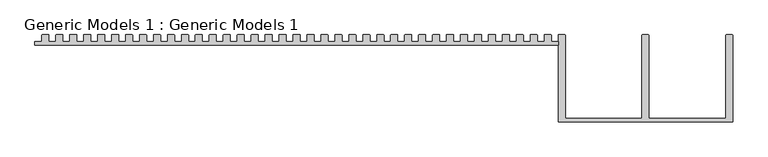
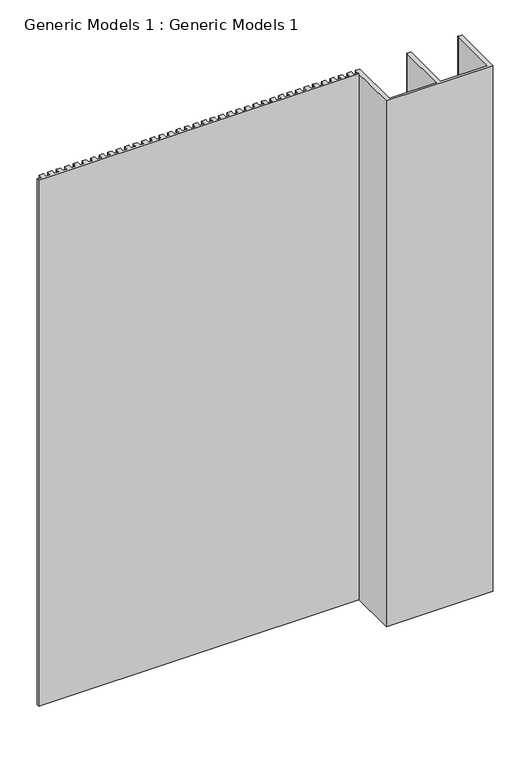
"""IFC4 building model written with IfcOpenShell, lengths in millimetres: proxy geometry, Generic Models 1 : Generic Models 1."""

import ifcopenshell
import ifcopenshell.guid

model = None  # the IFC model being written
_history = None  # IfcOwnerHistory: only IFC2X3 demands one
_inside = {}  # id of a spatial element -> (the spatial element, [elements in it])
_under = {}  # id of a project, library or spatial element -> (it, [spatial elements below it])
_declared = {}  # id of a project -> (the project, [libraries it declares])
_typed = {}  # id of a type object -> (the type object, [elements of that type])
_made_of = {}  # id of a material, layer set ... -> (it, [elements and type objects made of it])


def new_model(schema):
    """Start an empty IFC model of exactly this schema.

    Asked for "IFC4X3", IfcOpenShell would pick the latest addendum, in which some entities
    have other attributes; the version numbers below select the first issue.
    IFC2X3 requires an IfcOwnerHistory on every rooted entity: one is made here for all.
    """
    global model, _history
    if schema == "IFC4X3":
        model = ifcopenshell.file(schema_version=(4, 3, 0, 0))
    else:
        model = ifcopenshell.file(schema=schema)
    _inside.clear()
    _under.clear()
    _declared.clear()
    _typed.clear()
    _made_of.clear()
    _history = None
    if model.schema == "IFC2X3":
        org = make("IfcOrganization", Name="unknown")
        user = make(
            "IfcPersonAndOrganization",
            ThePerson=make("IfcPerson", FamilyName="unknown"),
            TheOrganization=org,
        )
        app = make(
            "IfcApplication",
            ApplicationDeveloper=org,
            Version="unknown",
            ApplicationFullName="unknown",
            ApplicationIdentifier="unknown",
        )
        _history = make(
            "IfcOwnerHistory",
            OwningUser=user,
            OwningApplication=app,
            ChangeAction="ADDED",
            CreationDate=0,
        )
    return model


def make(cls, **values):
    """One entity of the class cls with the attributes given. An attribute that is None is left unset."""
    return model.create_entity(
        cls, **{name: value for name, value in values.items() if value is not None}
    )


def rooted(cls, **values):
    """An entity with a GlobalId (a new one), such as an element, a storey or a relation."""
    return make(cls, GlobalId=ifcopenshell.guid.new(), OwnerHistory=_history, **values)


def si_unit(unit_type, name, prefix=None):
    """IfcSIUnit, for example si_unit("LENGTHUNIT", "METRE", prefix="MILLI")."""
    return make("IfcSIUnit", UnitType=unit_type, Prefix=prefix, Name=name)


def assignment(units):
    """IfcUnitAssignment: the units of a project."""
    return None if units is None else make("IfcUnitAssignment", Units=units)


def point(xyz):
    """IfcCartesianPoint."""
    return None if xyz is None else make("IfcCartesianPoint", Coordinates=xyz)


def direction(xyz):
    """IfcDirection."""
    return None if xyz is None else make("IfcDirection", DirectionRatios=xyz)


def frame(location, z_axis=None, x_axis=None):
    """IfcAxis2Placement3D, a coordinate frame: its origin and axes. An axis left out is left unset."""
    return make(
        "IfcAxis2Placement3D",
        Location=point(location),
        Axis=direction(z_axis),
        RefDirection=direction(x_axis),
    )


def frame_2d(location, x_axis=None):
    """IfcAxis2Placement2D, a coordinate frame in the plane: its origin and x axis."""
    return make(
        "IfcAxis2Placement2D", Location=point(location), RefDirection=direction(x_axis)
    )


def origin():
    """The frame at (0, 0, 0) with its axes left unset."""
    return frame((0.0, 0.0, 0.0))


def origin_with_axes():
    """The frame at (0, 0, 0) with the z axis (0, 0, 1) and the x axis (1, 0, 0) written out."""
    return frame((0.0, 0.0, 0.0), z_axis=(0.0, 0.0, 1.0), x_axis=(1.0, 0.0, 0.0))


def place(relative_to, where):
    """IfcLocalPlacement: puts the frame where relative to a parent placement (None: the world)."""
    return make(
        "IfcLocalPlacement", PlacementRelTo=relative_to, RelativePlacement=where
    )


def context(
    kind, dimensions, precision=None, world=None, true_north=None, identifier=None
):
    """IfcGeometricRepresentationContext, for example the 3D "Model" context."""
    return make(
        "IfcGeometricRepresentationContext",
        ContextIdentifier=identifier,
        ContextType=kind,
        CoordinateSpaceDimension=dimensions,
        Precision=precision,
        WorldCoordinateSystem=world,
        TrueNorth=true_north,
    )


def project(units=None, contexts=None):
    """IfcProject with its units and contexts."""
    return rooted(
        "IfcProject",
        Name="project",
        RepresentationContexts=contexts,
        UnitsInContext=assignment(units),
    )


def spatial(cls, under=None, at=None, **own):
    """A site, building, storey or space (cls), placed at a placement, below another one or the project."""
    s = rooted(cls, ObjectPlacement=at, **own)
    if under is not None:
        _under.setdefault(under.id(), (under, []))[1].append(s)
    return s


def polyline(points):
    """IfcPolyline through the points."""
    return make("IfcPolyline", Points=[point(p) for p in points])


def circle_curve(where, radius):
    """IfcCircle in the frame where."""
    return make("IfcCircle", Position=where, Radius=radius)


def trimmed(basis, trim1, trim2, sense, master):
    """IfcTrimmedCurve: the piece of a basis curve between two trims."""
    return make(
        "IfcTrimmedCurve",
        BasisCurve=basis,
        Trim1=trim1,
        Trim2=trim2,
        SenseAgreement=sense,
        MasterRepresentation=master,
    )


def segment(curve, same_sense, transition):
    """IfcCompositeCurveSegment."""
    return make(
        "IfcCompositeCurveSegment",
        Transition=transition,
        SameSense=same_sense,
        ParentCurve=curve,
    )


def composite_curve(segments, self_intersect=None):
    """IfcCompositeCurve: segments joined end to end."""
    return make("IfcCompositeCurve", Segments=segments, SelfIntersect=self_intersect)


def outline(outer, holes=None, kind="AREA"):
    """IfcArbitraryClosedProfileDef: a profile drawn as a closed curve; with holes, ...WithVoids."""
    if holes is None:
        return make("IfcArbitraryClosedProfileDef", ProfileType=kind, OuterCurve=outer)
    return make(
        "IfcArbitraryProfileDefWithVoids",
        ProfileType=kind,
        OuterCurve=outer,
        InnerCurves=holes,
    )


def extrude(swept, where, along, depth):
    """IfcExtrudedAreaSolid: the profile swept, set in the frame where, extruded along a direction by depth."""
    return make(
        "IfcExtrudedAreaSolid",
        SweptArea=swept,
        Position=where,
        ExtrudedDirection=direction(along),
        Depth=depth,
    )


def shape(context_of_items, identifier, shape_type, items):
    """IfcShapeRepresentation: the items that make up one representation, for example the "Body"."""
    return make(
        "IfcShapeRepresentation",
        ContextOfItems=context_of_items,
        RepresentationIdentifier=identifier,
        RepresentationType=shape_type,
        Items=items,
    )


def source(mapping_origin, context_of_items, identifier, shape_type, items):
    """IfcRepresentationMap: a shape defined once, which mapped items show again and again."""
    return make(
        "IfcRepresentationMap",
        MappingOrigin=mapping_origin,
        MappedRepresentation=shape(context_of_items, identifier, shape_type, items),
    )


def transform(
    local_origin,
    x_axis=None,
    y_axis=None,
    z_axis=None,
    scale=None,
    scale2=None,
    scale3=None,
    uniform=True,
):
    """IfcCartesianTransformationOperator3D, or its non-uniform kind. x_axis, y_axis, z_axis: its Axis1, 2, 3."""
    if uniform:
        return make(
            "IfcCartesianTransformationOperator3D",
            Axis1=direction(x_axis),
            Axis2=direction(y_axis),
            LocalOrigin=point(local_origin),
            Scale=scale,
            Axis3=direction(z_axis),
        )
    return make(
        "IfcCartesianTransformationOperator3DnonUniform",
        Axis1=direction(x_axis),
        Axis2=direction(y_axis),
        LocalOrigin=point(local_origin),
        Scale=scale,
        Axis3=direction(z_axis),
        Scale2=scale2,
        Scale3=scale3,
    )


def mapped(mapping_source, mapping_target):
    """IfcMappedItem: shows the shape of a source again, moved by a transform."""
    return make(
        "IfcMappedItem", MappingSource=mapping_source, MappingTarget=mapping_target
    )


def made_of(thing, what):
    """Note that an element or type object is made of a material, layer set ...; save() writes the relation."""
    if what is not None:
        _made_of.setdefault(what.id(), (what, []))[1].append(thing)
    return thing


def element(
    cls,
    number,
    at=None,
    inside=None,
    cuts=None,
    type_object=None,
    material=None,
    context=None,
    identifier="Body",
    shape_type=None,
    held_by="IfcProductDefinitionShape",
    body=None,
    shapes=None,
    **own,
):
    """One element of the class cls, such as IfcWall. Its Tag is "e" and its number.

    at: its placement. inside: the storey or other place that contains it. cuts: it is an
    opening in that element (IfcRelVoidsElement). A single representation is given by context,
    identifier, shape_type and body (its items); several are given by shapes. held_by: the class
    of the entity that holds the representations. save() writes the other relations.
    """
    e = rooted(cls, Tag="e%d" % number, ObjectPlacement=at, **own)
    if body is not None:
        shapes = [shape(context, identifier, shape_type, body)]
    if shapes is not None:
        e.Representation = make(held_by, Representations=shapes)
    if inside is not None:
        _inside.setdefault(inside.id(), (inside, []))[1].append(e)
    if cuts is not None:
        rooted(
            "IfcRelVoidsElement", RelatingBuildingElement=cuts, RelatedOpeningElement=e
        )
    if type_object is not None:
        _typed.setdefault(type_object.id(), (type_object, []))[1].append(e)
    return made_of(e, material)


def aggregate(whole, parts):
    """IfcRelAggregates: a whole, such as a stair, and the parts it consists of."""
    return rooted("IfcRelAggregates", RelatingObject=whole, RelatedObjects=parts)


def save(model, path):
    """Write the relations noted so far, then the file.

    IfcRelAggregates (storeys below a building ...), IfcRelContainedInSpatialStructure (elements
    in a storey), IfcRelDefinesByType, IfcRelAssociatesMaterial and IfcRelDeclares: one each for
    every whole, place, type object, material and project.
    """
    for whole, parts in _under.values():
        aggregate(whole, parts)
    for where, things in _inside.values():
        rooted(
            "IfcRelContainedInSpatialStructure",
            RelatedElements=things,
            RelatingStructure=where,
        )
    for kind, things in _typed.values():
        rooted("IfcRelDefinesByType", RelatedObjects=things, RelatingType=kind)
    for what, things in _made_of.values():
        rooted("IfcRelAssociatesMaterial", RelatedObjects=things, RelatingMaterial=what)
    for by, libraries in _declared.values():
        rooted("IfcRelDeclares", RelatingContext=by, RelatedDefinitions=libraries)
    model.write(path)


def generic_models_1_generic_models_1_0ef974a1(model_context):
    return source(origin(), model_context, "Body", "SweptSolid", [
        extrude(outline(composite_curve([segment(polyline([(-7421.4531836, -3130.6595241), (-7421.4531836, -3120.6595241), (-7401.4531836, -3120.6595241), (-7401.4531836, -3101.6595241)]), True, "CONTINUOUS"), segment(trimmed(circle_curve(frame_2d((-7400.4531836, -3101.6595241)), 1.0), [point((-7401.4531836, -3101.6595241))], [point((-7400.4531836, -3100.6595241))], False, "CARTESIAN"), True, "CONTINUOUS"), segment(polyline([(-7400.4531836, -3100.6595241), (-7382.4531836, -3100.6595241)]), True, "CONTINUOUS"), segment(trimmed(circle_curve(frame_2d((-7382.4531836, -3101.6595241)), 1.0), [point((-7382.4531836, -3100.6595241))], [point((-7381.4531836, -3101.6595241))], False, "CARTESIAN"), True, "CONTINUOUS"), segment(polyline([(-7381.4531836, -3101.6595241), (-7381.4531836, -3120.6595241), (-7361.4531836, -3120.6595241), (-7361.4531836, -3101.6595241)]), True, "CONTINUOUS"), segment(trimmed(circle_curve(frame_2d((-7360.4531836, -3101.6595241)), 1.0), [point((-7361.4531836, -3101.6595241))], [point((-7360.4531836, -3100.6595241))], False, "CARTESIAN"), True, "CONTINUOUS"), segment(polyline([(-7360.4531836, -3100.6595241), (-7342.4531836, -3100.6595241)]), True, "CONTINUOUS"), segment(trimmed(circle_curve(frame_2d((-7342.4531836, -3101.6595241)), 1.0), [point((-7342.4531836, -3100.6595241))], [point((-7341.4531836, -3101.6595241))], False, "CARTESIAN"), True, "CONTINUOUS"), segment(polyline([(-7341.4531836, -3101.6595241), (-7341.4531836, -3120.6595241), (-7321.4531836, -3120.6595241), (-7321.4531836, -3101.6595241)]), True, "CONTINUOUS"), segment(trimmed(circle_curve(frame_2d((-7320.4531836, -3101.6595241)), 1.0), [point((-7321.4531836, -3101.6595241))], [point((-7320.4531836, -3100.6595241))], False, "CARTESIAN"), True, "CONTINUOUS"), segment(polyline([(-7320.4531836, -3100.6595241), (-7302.4531836, -3100.6595241)]), True, "CONTINUOUS"), segment(trimmed(circle_curve(frame_2d((-7302.4531836, -3101.6595241)), 1.0), [point((-7302.4531836, -3100.6595241))], [point((-7301.4531836, -3101.6595241))], False, "CARTESIAN"), True, "CONTINUOUS"), segment(polyline([(-7301.4531836, -3101.6595241), (-7301.4531836, -3120.6595241), (-7281.4531836, -3120.6595241), (-7281.4531836, -3101.6595241)]), True, "CONTINUOUS"), segment(trimmed(circle_curve(frame_2d((-7280.4531836, -3101.6595241)), 1.0), [point((-7281.4531836, -3101.6595241))], [point((-7280.4531836, -3100.6595241))], False, "CARTESIAN"), True, "CONTINUOUS"), segment(polyline([(-7280.4531836, -3100.6595241), (-7262.4531836, -3100.6595241)]), True, "CONTINUOUS"), segment(trimmed(circle_curve(frame_2d((-7262.4531836, -3101.6595241)), 1.0), [point((-7262.4531836, -3100.6595241))], [point((-7261.4531836, -3101.6595241))], False, "CARTESIAN"), True, "CONTINUOUS"), segment(polyline([(-7261.4531836, -3101.6595241), (-7261.4531836, -3120.6595241), (-7241.4531836, -3120.6595241), (-7241.4531836, -3101.6595241)]), True, "CONTINUOUS"), segment(trimmed(circle_curve(frame_2d((-7240.4531836, -3101.6595241)), 1.0), [point((-7241.4531836, -3101.6595241))], [point((-7240.4531836, -3100.6595241))], False, "CARTESIAN"), True, "CONTINUOUS"), segment(polyline([(-7240.4531836, -3100.6595241), (-7222.4531836, -3100.6595241)]), True, "CONTINUOUS"), segment(trimmed(circle_curve(frame_2d((-7222.4531836, -3101.6595241)), 1.0), [point((-7222.4531836, -3100.6595241))], [point((-7221.4531836, -3101.6595241))], False, "CARTESIAN"), True, "CONTINUOUS"), segment(polyline([(-7221.4531836, -3101.6595241), (-7221.4531836, -3120.6595241), (-7201.4531836, -3120.6595241), (-7201.4531836, -3101.6595241)]), True, "CONTINUOUS"), segment(trimmed(circle_curve(frame_2d((-7200.4531836, -3101.6595241)), 1.0), [point((-7201.4531836, -3101.6595241))], [point((-7200.4531836, -3100.6595241))], False, "CARTESIAN"), True, "CONTINUOUS"), segment(polyline([(-7200.4531836, -3100.6595241), (-7182.4531836, -3100.6595241)]), True, "CONTINUOUS"), segment(trimmed(circle_curve(frame_2d((-7182.4531836, -3101.6595241)), 1.0), [point((-7182.4531836, -3100.6595241))], [point((-7181.4531836, -3101.6595241))], False, "CARTESIAN"), True, "CONTINUOUS"), segment(polyline([(-7181.4531836, -3101.6595241), (-7181.4531836, -3120.6595241), (-7161.4531836, -3120.6595241), (-7161.4531836, -3101.6595241)]), True, "CONTINUOUS"), segment(trimmed(circle_curve(frame_2d((-7160.4531836, -3101.6595241)), 1.0), [point((-7161.4531836, -3101.6595241))], [point((-7160.4531836, -3100.6595241))], False, "CARTESIAN"), True, "CONTINUOUS"), segment(polyline([(-7160.4531836, -3100.6595241), (-7142.4531836, -3100.6595241)]), True, "CONTINUOUS"), segment(trimmed(circle_curve(frame_2d((-7142.4531836, -3101.6595241)), 1.0), [point((-7142.4531836, -3100.6595241))], [point((-7141.4531836, -3101.6595241))], False, "CARTESIAN"), True, "CONTINUOUS"), segment(polyline([(-7141.4531836, -3101.6595241), (-7141.4531836, -3120.6595241), (-7121.4531836, -3120.6595241), (-7121.4531836, -3101.6595241)]), True, "CONTINUOUS"), segment(trimmed(circle_curve(frame_2d((-7120.4531836, -3101.6595241)), 1.0), [point((-7121.4531836, -3101.6595241))], [point((-7120.4531836, -3100.6595241))], False, "CARTESIAN"), True, "CONTINUOUS"), segment(polyline([(-7120.4531836, -3100.6595241), (-7102.4531836, -3100.6595241)]), True, "CONTINUOUS"), segment(trimmed(circle_curve(frame_2d((-7102.4531836, -3101.6595241)), 1.0), [point((-7102.4531836, -3100.6595241))], [point((-7101.4531836, -3101.6595241))], False, "CARTESIAN"), True, "CONTINUOUS"), segment(polyline([(-7101.4531836, -3101.6595241), (-7101.4531836, -3120.6595241), (-7081.4531836, -3120.6595241), (-7081.4531836, -3101.6595241)]), True, "CONTINUOUS"), segment(trimmed(circle_curve(frame_2d((-7080.4531836, -3101.6595241)), 1.0), [point((-7081.4531836, -3101.6595241))], [point((-7080.4531836, -3100.6595241))], False, "CARTESIAN"), True, "CONTINUOUS"), segment(polyline([(-7080.4531836, -3100.6595241), (-7062.4531836, -3100.6595241)]), True, "CONTINUOUS"), segment(trimmed(circle_curve(frame_2d((-7062.4531836, -3101.6595241)), 1.0), [point((-7062.4531836, -3100.6595241))], [point((-7061.4531836, -3101.6595241))], False, "CARTESIAN"), True, "CONTINUOUS"), segment(polyline([(-7061.4531836, -3101.6595241), (-7061.4531836, -3120.6595241), (-7041.4531836, -3120.6595241), (-7041.4531836, -3101.6595241)]), True, "CONTINUOUS"), segment(trimmed(circle_curve(frame_2d((-7040.4531836, -3101.6595241)), 1.0), [point((-7041.4531836, -3101.6595241))], [point((-7040.4531836, -3100.6595241))], False, "CARTESIAN"), True, "CONTINUOUS"), segment(polyline([(-7040.4531836, -3100.6595241), (-7022.4531836, -3100.6595241)]), True, "CONTINUOUS"), segment(trimmed(circle_curve(frame_2d((-7022.4531836, -3101.6595241)), 1.0), [point((-7022.4531836, -3100.6595241))], [point((-7021.4531836, -3101.6595241))], False, "CARTESIAN"), True, "CONTINUOUS"), segment(polyline([(-7021.4531836, -3101.6595241), (-7021.4531836, -3120.6595241), (-7001.4531836, -3120.6595241), (-7001.4531836, -3101.6595241)]), True, "CONTINUOUS"), segment(trimmed(circle_curve(frame_2d((-7000.4531836, -3101.6595241)), 1.0), [point((-7001.4531836, -3101.6595241))], [point((-7000.4531836, -3100.6595241))], False, "CARTESIAN"), True, "CONTINUOUS"), segment(polyline([(-7000.4531836, -3100.6595241), (-6982.4531836, -3100.6595241)]), True, "CONTINUOUS"), segment(trimmed(circle_curve(frame_2d((-6982.4531836, -3101.6595241)), 1.0), [point((-6982.4531836, -3100.6595241))], [point((-6981.4531836, -3101.6595241))], False, "CARTESIAN"), True, "CONTINUOUS"), segment(polyline([(-6981.4531836, -3101.6595241), (-6981.4531836, -3120.6595241), (-6961.4531836, -3120.6595241), (-6961.4531836, -3101.6595241)]), True, "CONTINUOUS"), segment(trimmed(circle_curve(frame_2d((-6960.4531836, -3101.6595241)), 1.0), [point((-6961.4531836, -3101.6595241))], [point((-6960.4531836, -3100.6595241))], False, "CARTESIAN"), True, "CONTINUOUS"), segment(polyline([(-6960.4531836, -3100.6595241), (-6942.4531836, -3100.6595241)]), True, "CONTINUOUS"), segment(trimmed(circle_curve(frame_2d((-6942.4531836, -3101.6595241)), 1.0), [point((-6942.4531836, -3100.6595241))], [point((-6941.4531836, -3101.6595241))], False, "CARTESIAN"), True, "CONTINUOUS"), segment(polyline([(-6941.4531836, -3101.6595241), (-6941.4531836, -3120.6595241), (-6921.4531836, -3120.6595241), (-6921.4531836, -3101.6595241)]), True, "CONTINUOUS"), segment(trimmed(circle_curve(frame_2d((-6920.4531836, -3101.6595241)), 1.0), [point((-6921.4531836, -3101.6595241))], [point((-6920.4531836, -3100.6595241))], False, "CARTESIAN"), True, "CONTINUOUS"), segment(polyline([(-6920.4531836, -3100.6595241), (-6902.4531836, -3100.6595241)]), True, "CONTINUOUS"), segment(trimmed(circle_curve(frame_2d((-6902.4531836, -3101.6595241)), 1.0), [point((-6902.4531836, -3100.6595241))], [point((-6901.4531836, -3101.6595241))], False, "CARTESIAN"), True, "CONTINUOUS"), segment(polyline([(-6901.4531836, -3101.6595241), (-6901.4531836, -3120.6595241), (-6881.4531836, -3120.6595241), (-6881.4531836, -3101.6595241)]), True, "CONTINUOUS"), segment(trimmed(circle_curve(frame_2d((-6880.4531836, -3101.6595241)), 1.0), [point((-6881.4531836, -3101.6595241))], [point((-6880.4531836, -3100.6595241))], False, "CARTESIAN"), True, "CONTINUOUS"), segment(polyline([(-6880.4531836, -3100.6595241), (-6862.4531836, -3100.6595241)]), True, "CONTINUOUS"), segment(trimmed(circle_curve(frame_2d((-6862.4531836, -3101.6595241)), 1.0), [point((-6862.4531836, -3100.6595241))], [point((-6861.4531836, -3101.6595241))], False, "CARTESIAN"), True, "CONTINUOUS"), segment(polyline([(-6861.4531836, -3101.6595241), (-6861.4531836, -3120.6595241), (-6841.4531836, -3120.6595241), (-6841.4531836, -3101.6595241)]), True, "CONTINUOUS"), segment(trimmed(circle_curve(frame_2d((-6840.4531836, -3101.6595241)), 1.0), [point((-6841.4531836, -3101.6595241))], [point((-6840.4531836, -3100.6595241))], False, "CARTESIAN"), True, "CONTINUOUS"), segment(polyline([(-6840.4531836, -3100.6595241), (-6822.4531836, -3100.6595241)]), True, "CONTINUOUS"), segment(trimmed(circle_curve(frame_2d((-6822.4531836, -3101.6595241)), 1.0), [point((-6822.4531836, -3100.6595241))], [point((-6821.4531836, -3101.6595241))], False, "CARTESIAN"), True, "CONTINUOUS"), segment(polyline([(-6821.4531836, -3101.6595241), (-6821.4531836, -3120.6595241), (-6801.4531836, -3120.6595241), (-6801.4531836, -3101.6595241)]), True, "CONTINUOUS"), segment(trimmed(circle_curve(frame_2d((-6800.4531836, -3101.6595241)), 1.0), [point((-6801.4531836, -3101.6595241))], [point((-6800.4531836, -3100.6595241))], False, "CARTESIAN"), True, "CONTINUOUS"), segment(polyline([(-6800.4531836, -3100.6595241), (-6782.4531836, -3100.6595241)]), True, "CONTINUOUS"), segment(trimmed(circle_curve(frame_2d((-6782.4531836, -3101.6595241)), 1.0), [point((-6782.4531836, -3100.6595241))], [point((-6781.4531836, -3101.6595241))], False, "CARTESIAN"), True, "CONTINUOUS"), segment(polyline([(-6781.4531836, -3101.6595241), (-6781.4531836, -3120.6595241), (-6761.4531836, -3120.6595241), (-6761.4531836, -3101.6595241)]), True, "CONTINUOUS"), segment(trimmed(circle_curve(frame_2d((-6760.4531836, -3101.6595241)), 1.0), [point((-6761.4531836, -3101.6595241))], [point((-6760.4531836, -3100.6595241))], False, "CARTESIAN"), True, "CONTINUOUS"), segment(polyline([(-6760.4531836, -3100.6595241), (-6742.4531836, -3100.6595241)]), True, "CONTINUOUS"), segment(trimmed(circle_curve(frame_2d((-6742.4531836, -3101.6595241)), 1.0), [point((-6742.4531836, -3100.6595241))], [point((-6741.4531836, -3101.6595241))], False, "CARTESIAN"), True, "CONTINUOUS"), segment(polyline([(-6741.4531836, -3101.6595241), (-6741.4531836, -3120.6595241), (-6721.4531836, -3120.6595241), (-6721.4531836, -3101.6595241)]), True, "CONTINUOUS"), segment(trimmed(circle_curve(frame_2d((-6720.4531836, -3101.6595241)), 1.0), [point((-6721.4531836, -3101.6595241))], [point((-6720.4531836, -3100.6595241))], False, "CARTESIAN"), True, "CONTINUOUS"), segment(polyline([(-6720.4531836, -3100.6595241), (-6702.4531836, -3100.6595241)]), True, "CONTINUOUS"), segment(trimmed(circle_curve(frame_2d((-6702.4531836, -3101.6595241)), 1.0), [point((-6702.4531836, -3100.6595241))], [point((-6701.4531836, -3101.6595241))], False, "CARTESIAN"), True, "CONTINUOUS"), segment(polyline([(-6701.4531836, -3101.6595241), (-6701.4531836, -3120.6595241), (-6681.4531836, -3120.6595241), (-6681.4531836, -3101.6595241)]), True, "CONTINUOUS"), segment(trimmed(circle_curve(frame_2d((-6680.4531836, -3101.6595241)), 1.0), [point((-6681.4531836, -3101.6595241))], [point((-6680.4531836, -3100.6595241))], False, "CARTESIAN"), True, "CONTINUOUS"), segment(polyline([(-6680.4531836, -3100.6595241), (-6662.4531836, -3100.6595241)]), True, "CONTINUOUS"), segment(trimmed(circle_curve(frame_2d((-6662.4531836, -3101.6595241)), 1.0), [point((-6662.4531836, -3100.6595241))], [point((-6661.4531836, -3101.6595241))], False, "CARTESIAN"), True, "CONTINUOUS"), segment(polyline([(-6661.4531836, -3101.6595241), (-6661.4531836, -3120.6595241), (-6641.4531836, -3120.6595241), (-6641.4531836, -3101.6595241)]), True, "CONTINUOUS"), segment(trimmed(circle_curve(frame_2d((-6640.4531836, -3101.6595241)), 1.0), [point((-6641.4531836, -3101.6595241))], [point((-6640.4531836, -3100.6595241))], False, "CARTESIAN"), True, "CONTINUOUS"), segment(polyline([(-6640.4531836, -3100.6595241), (-6622.4531836, -3100.6595241)]), True, "CONTINUOUS"), segment(trimmed(circle_curve(frame_2d((-6622.4531836, -3101.6595241)), 1.0), [point((-6622.4531836, -3100.6595241))], [point((-6621.4531836, -3101.6595241))], False, "CARTESIAN"), True, "CONTINUOUS"), segment(polyline([(-6621.4531836, -3101.6595241), (-6621.4531836, -3120.6595241), (-6601.4531836, -3120.6595241), (-6601.4531836, -3101.6595241)]), True, "CONTINUOUS"), segment(trimmed(circle_curve(frame_2d((-6600.4531836, -3101.6595241)), 1.0), [point((-6601.4531836, -3101.6595241))], [point((-6600.4531836, -3100.6595241))], False, "CARTESIAN"), True, "CONTINUOUS"), segment(polyline([(-6600.4531836, -3100.6595241), (-6582.4531836, -3100.6595241)]), True, "CONTINUOUS"), segment(trimmed(circle_curve(frame_2d((-6582.4531836, -3101.6595241)), 1.0), [point((-6582.4531836, -3100.6595241))], [point((-6581.4531836, -3101.6595241))], False, "CARTESIAN"), True, "CONTINUOUS"), segment(polyline([(-6581.4531836, -3101.6595241), (-6581.4531836, -3120.6595241), (-6561.4531836, -3120.6595241), (-6561.4531836, -3101.6595241)]), True, "CONTINUOUS"), segment(trimmed(circle_curve(frame_2d((-6560.4531836, -3101.6595241)), 1.0), [point((-6561.4531836, -3101.6595241))], [point((-6560.4531836, -3100.6595241))], False, "CARTESIAN"), True, "CONTINUOUS"), segment(polyline([(-6560.4531836, -3100.6595241), (-6542.4531836, -3100.6595241)]), True, "CONTINUOUS"), segment(trimmed(circle_curve(frame_2d((-6542.4531836, -3101.6595241)), 1.0), [point((-6542.4531836, -3100.6595241))], [point((-6541.4531836, -3101.6595241))], False, "CARTESIAN"), True, "CONTINUOUS"), segment(polyline([(-6541.4531836, -3101.6595241), (-6541.4531836, -3120.6595241), (-6521.4531836, -3120.6595241), (-6521.4531836, -3101.6595241)]), True, "CONTINUOUS"), segment(trimmed(circle_curve(frame_2d((-6520.4531836, -3101.6595241)), 1.0), [point((-6521.4531836, -3101.6595241))], [point((-6520.4531836, -3100.6595241))], False, "CARTESIAN"), True, "CONTINUOUS"), segment(polyline([(-6520.4531836, -3100.6595241), (-6502.4531836, -3100.6595241)]), True, "CONTINUOUS"), segment(trimmed(circle_curve(frame_2d((-6502.4531836, -3101.6595241)), 1.0), [point((-6502.4531836, -3100.6595241))], [point((-6501.4531836, -3101.6595241))], False, "CARTESIAN"), True, "CONTINUOUS"), segment(polyline([(-6501.4531836, -3101.6595241), (-6501.4531836, -3120.6595241), (-6481.4531836, -3120.6595241), (-6481.4531836, -3101.6595241)]), True, "CONTINUOUS"), segment(trimmed(circle_curve(frame_2d((-6480.4531836, -3101.6595241)), 1.0), [point((-6481.4531836, -3101.6595241))], [point((-6480.4531836, -3100.6595241))], False, "CARTESIAN"), True, "CONTINUOUS"), segment(polyline([(-6480.4531836, -3100.6595241), (-6462.4531836, -3100.6595241)]), True, "CONTINUOUS"), segment(trimmed(circle_curve(frame_2d((-6462.4531836, -3101.6595241)), 1.0), [point((-6462.4531836, -3100.6595241))], [point((-6461.4531836, -3101.6595241))], False, "CARTESIAN"), True, "CONTINUOUS"), segment(polyline([(-6461.4531836, -3101.6595241), (-6461.4531836, -3120.6595241), (-6441.4531836, -3120.6595241), (-6441.4531836, -3101.6595241)]), True, "CONTINUOUS"), segment(trimmed(circle_curve(frame_2d((-6440.4531836, -3101.6595241)), 1.0), [point((-6441.4531836, -3101.6595241))], [point((-6440.4531836, -3100.6595241))], False, "CARTESIAN"), True, "CONTINUOUS"), segment(polyline([(-6440.4531836, -3100.6595241), (-6422.4531836, -3100.6595241)]), True, "CONTINUOUS"), segment(trimmed(circle_curve(frame_2d((-6422.4531836, -3101.6595241)), 1.0), [point((-6422.4531836, -3100.6595241))], [point((-6421.4531836, -3101.6595241))], False, "CARTESIAN"), True, "CONTINUOUS"), segment(polyline([(-6421.4531836, -3101.6595241), (-6421.4531836, -3120.6595241), (-6401.4531836, -3120.6595241), (-6401.4531836, -3101.6595241)]), True, "CONTINUOUS"), segment(trimmed(circle_curve(frame_2d((-6400.4531836, -3101.6595241)), 1.0), [point((-6401.4531836, -3101.6595241))], [point((-6400.4531836, -3100.6595241))], False, "CARTESIAN"), True, "CONTINUOUS"), segment(polyline([(-6400.4531836, -3100.6595241), (-6382.4531836, -3100.6595241)]), True, "CONTINUOUS"), segment(trimmed(circle_curve(frame_2d((-6382.4531836, -3101.6595241)), 1.0), [point((-6382.4531836, -3100.6595241))], [point((-6381.4531836, -3101.6595241))], False, "CARTESIAN"), True, "CONTINUOUS"), segment(polyline([(-6381.4531836, -3101.6595241), (-6381.4531836, -3120.6595241), (-6361.4531836, -3120.6595241), (-6361.4531836, -3101.6595241)]), True, "CONTINUOUS"), segment(trimmed(circle_curve(frame_2d((-6360.4531836, -3101.6595241)), 1.0), [point((-6361.4531836, -3101.6595241))], [point((-6360.4531836, -3100.6595241))], False, "CARTESIAN"), True, "CONTINUOUS"), segment(polyline([(-6360.4531836, -3100.6595241), (-6342.4531836, -3100.6595241)]), True, "CONTINUOUS"), segment(trimmed(circle_curve(frame_2d((-6342.4531836, -3101.6595241)), 1.0), [point((-6342.4531836, -3100.6595241))], [point((-6341.4531836, -3101.6595241))], False, "CARTESIAN"), True, "CONTINUOUS"), segment(polyline([(-6341.4531836, -3101.6595241), (-6341.4531836, -3120.6595241), (-6321.4531836, -3120.6595241), (-6321.4531836, -3101.6595241)]), True, "CONTINUOUS"), segment(trimmed(circle_curve(frame_2d((-6320.4531836, -3101.6595241)), 1.0), [point((-6321.4531836, -3101.6595241))], [point((-6320.4531836, -3100.6595241))], False, "CARTESIAN"), True, "CONTINUOUS"), segment(polyline([(-6320.4531836, -3100.6595241), (-6302.4531836, -3100.6595241)]), True, "CONTINUOUS"), segment(trimmed(circle_curve(frame_2d((-6302.4531836, -3101.6595241)), 1.0), [point((-6302.4531836, -3100.6595241))], [point((-6301.4531836, -3101.6595241))], False, "CARTESIAN"), True, "CONTINUOUS"), segment(polyline([(-6301.4531836, -3101.6595241), (-6301.4531836, -3120.6595241), (-6281.4531836, -3120.6595241), (-6281.4531836, -3101.6595241)]), True, "CONTINUOUS"), segment(trimmed(circle_curve(frame_2d((-6280.4531836, -3101.6595241)), 1.0), [point((-6281.4531836, -3101.6595241))], [point((-6280.4531836, -3100.6595241))], False, "CARTESIAN"), True, "CONTINUOUS"), segment(polyline([(-6280.4531836, -3100.6595241), (-6262.4531836, -3100.6595241)]), True, "CONTINUOUS"), segment(trimmed(circle_curve(frame_2d((-6262.4531836, -3101.6595241)), 1.0), [point((-6262.4531836, -3100.6595241))], [point((-6261.4531836, -3101.6595241))], False, "CARTESIAN"), True, "CONTINUOUS"), segment(polyline([(-6261.4531836, -3101.6595241), (-6261.4531836, -3120.6595241), (-6241.4531836, -3120.6595241), (-6241.4531836, -3101.6595241)]), True, "CONTINUOUS"), segment(trimmed(circle_curve(frame_2d((-6240.4531836, -3101.6595241)), 1.0), [point((-6241.4531836, -3101.6595241))], [point((-6240.4531836, -3100.6595241))], False, "CARTESIAN"), True, "CONTINUOUS"), segment(polyline([(-6240.4531836, -3100.6595241), (-6222.4531836, -3100.6595241)]), True, "CONTINUOUS"), segment(trimmed(circle_curve(frame_2d((-6222.4531836, -3101.6595241)), 1.0), [point((-6222.4531836, -3100.6595241))], [point((-6221.4531836, -3101.6595241))], False, "CARTESIAN"), True, "CONTINUOUS"), segment(polyline([(-6221.4531836, -3101.6595241), (-6221.4531836, -3120.6595241), (-6201.4531836, -3120.6595241), (-6201.4531836, -3101.6595241)]), True, "CONTINUOUS"), segment(trimmed(circle_curve(frame_2d((-6200.4531836, -3101.6595241)), 1.0), [point((-6201.4531836, -3101.6595241))], [point((-6200.4531836, -3100.6595241))], False, "CARTESIAN"), True, "CONTINUOUS"), segment(polyline([(-6200.4531836, -3100.6595241), (-6182.4531836, -3100.6595241)]), True, "CONTINUOUS"), segment(trimmed(circle_curve(frame_2d((-6182.4531836, -3101.6595241)), 1.0), [point((-6182.4531836, -3100.6595241))], [point((-6181.4531836, -3101.6595241))], False, "CARTESIAN"), True, "CONTINUOUS"), segment(polyline([(-6181.4531836, -3101.6595241), (-6181.4531836, -3120.6595241), (-6161.4531836, -3120.6595241), (-6161.4531836, -3101.6595241)]), True, "CONTINUOUS"), segment(trimmed(circle_curve(frame_2d((-6160.4531836, -3101.6595241)), 1.0), [point((-6161.4531836, -3101.6595241))], [point((-6160.4531836, -3100.6595241))], False, "CARTESIAN"), True, "CONTINUOUS"), segment(polyline([(-6160.4531836, -3100.6595241), (-6142.4531836, -3100.6595241)]), True, "CONTINUOUS"), segment(trimmed(circle_curve(frame_2d((-6142.4531836, -3101.6595241)), 1.0), [point((-6142.4531836, -3100.6595241))], [point((-6141.4531836, -3101.6595241))], False, "CARTESIAN"), True, "CONTINUOUS"), segment(polyline([(-6141.4531836, -3101.6595241), (-6141.4531836, -3120.6595241), (-6121.4531836, -3120.6595241), (-6121.4531836, -3101.6595241)]), True, "CONTINUOUS"), segment(trimmed(circle_curve(frame_2d((-6120.4531836, -3101.6595241)), 1.0), [point((-6121.4531836, -3101.6595241))], [point((-6120.4531836, -3100.6595241))], False, "CARTESIAN"), True, "CONTINUOUS"), segment(polyline([(-6120.4531836, -3100.6595241), (-6102.4531836, -3100.6595241)]), True, "CONTINUOUS"), segment(trimmed(circle_curve(frame_2d((-6102.4531836, -3101.6595241)), 1.0), [point((-6102.4531836, -3100.6595241))], [point((-6101.4531836, -3101.6595241))], False, "CARTESIAN"), True, "CONTINUOUS"), segment(polyline([(-6101.4531836, -3101.6595241), (-6101.4531836, -3120.6595241), (-6081.4531836, -3120.6595241), (-6081.4531836, -3101.6595241)]), True, "CONTINUOUS"), segment(trimmed(circle_curve(frame_2d((-6080.4531836, -3101.6595241)), 1.0), [point((-6081.4531836, -3101.6595241))], [point((-6080.4531836, -3100.6595241))], False, "CARTESIAN"), True, "CONTINUOUS"), segment(polyline([(-6080.4531836, -3100.6595241), (-6062.4531836, -3100.6595241)]), True, "CONTINUOUS"), segment(trimmed(circle_curve(frame_2d((-6062.4531836, -3101.6595241)), 1.0), [point((-6062.4531836, -3100.6595241))], [point((-6061.4531836, -3101.6595241))], False, "CARTESIAN"), True, "CONTINUOUS"), segment(polyline([(-6061.4531836, -3101.6595241), (-6061.4531836, -3120.6595241), (-6041.4531836, -3120.6595241), (-6041.4531836, -3101.6595241)]), True, "CONTINUOUS"), segment(trimmed(circle_curve(frame_2d((-6040.4531836, -3101.6595241)), 1.0), [point((-6041.4531836, -3101.6595241))], [point((-6040.4531836, -3100.6595241))], False, "CARTESIAN"), True, "CONTINUOUS"), segment(polyline([(-6040.4531836, -3100.6595241), (-6022.4531836, -3100.6595241)]), True, "CONTINUOUS"), segment(trimmed(circle_curve(frame_2d((-6022.4531836, -3101.6595241)), 1.0), [point((-6022.4531836, -3100.6595241))], [point((-6021.4531836, -3101.6595241))], False, "CARTESIAN"), True, "CONTINUOUS"), segment(polyline([(-6021.4531836, -3101.6595241), (-6021.4531836, -3120.6595241), (-6001.4531836, -3120.6595241), (-6001.4531836, -3101.6595241)]), True, "CONTINUOUS"), segment(trimmed(circle_curve(frame_2d((-6000.4531836, -3101.6595241)), 1.0), [point((-6001.4531836, -3101.6595241))], [point((-6000.4531836, -3100.6595241))], False, "CARTESIAN"), True, "CONTINUOUS"), segment(polyline([(-6000.4531836, -3100.6595241), (-5982.4531836, -3100.6595241)]), True, "CONTINUOUS"), segment(trimmed(circle_curve(frame_2d((-5982.4531836, -3101.6595241)), 1.0), [point((-5982.4531836, -3100.6595241))], [point((-5981.4531836, -3101.6595241))], False, "CARTESIAN"), True, "CONTINUOUS"), segment(polyline([(-5981.4531836, -3101.6595241), (-5981.4531836, -3120.6595241), (-5961.4531836, -3120.6595241), (-5961.4531836, -3101.6595241)]), True, "CONTINUOUS"), segment(trimmed(circle_curve(frame_2d((-5960.4531836, -3101.6595241)), 1.0), [point((-5961.4531836, -3101.6595241))], [point((-5960.4531836, -3100.6595241))], False, "CARTESIAN"), True, "CONTINUOUS"), segment(polyline([(-5960.4531836, -3100.6595241), (-5942.4531836, -3100.6595241)]), True, "CONTINUOUS"), segment(trimmed(circle_curve(frame_2d((-5942.4531836, -3101.6595241)), 1.0), [point((-5942.4531836, -3100.6595241))], [point((-5941.4531836, -3101.6595241))], False, "CARTESIAN"), True, "CONTINUOUS"), segment(polyline([(-5941.4531836, -3101.6595241), (-5941.4531836, -3120.6595241), (-5921.4531836, -3120.6595241), (-5921.4531836, -3130.6595241), (-7421.4531836, -3130.6595241)]), True, "CONTINUOUS")], self_intersect=False)), origin_with_axes(), (0.0, 0.0, 1.0), 2600.0),
        extrude(outline(composite_curve([segment(polyline([(-5439.463858, -3100.6595241), (-5423.4531836, -3100.6595241)]), True, "CONTINUOUS"), segment(trimmed(circle_curve(frame_2d((-5423.4531836, -3102.6595241)), 2.0), [point((-5423.4531836, -3100.6595241))], [point((-5421.4531836, -3102.6595241))], False, "CARTESIAN"), True, "CONTINUOUS"), segment(polyline([(-5421.4531836, -3102.6595241), (-5421.4531836, -3350.6595241), (-5921.4531836, -3350.6595241), (-5921.4531836, -3102.6488498)]), True, "CONTINUOUS"), segment(trimmed(circle_curve(frame_2d((-5919.463858, -3102.6488498)), 1.9893257), [point((-5921.4531836, -3102.6488498))], [point((-5919.463858, -3100.6595241))], False, "CARTESIAN"), True, "CONTINUOUS"), segment(polyline([(-5919.463858, -3100.6595241), (-5903.4531836, -3100.6595241)]), True, "CONTINUOUS"), segment(trimmed(circle_curve(frame_2d((-5903.4531836, -3102.6595241)), 2.0), [point((-5903.4531836, -3100.6595241))], [point((-5901.4531836, -3102.6595241))], False, "CARTESIAN"), True, "CONTINUOUS"), segment(polyline([(-5901.4531836, -3102.6595241), (-5901.4531836, -3340.6595241), (-5681.4478465, -3340.6595241), (-5681.4478465, -3102.6488498)]), True, "CONTINUOUS"), segment(trimmed(circle_curve(frame_2d((-5679.4585208, -3102.6488498)), 1.9893257), [point((-5681.4478465, -3102.6488498))], [point((-5679.4585208, -3100.6595241))], False, "CARTESIAN"), True, "CONTINUOUS"), segment(polyline([(-5679.4585208, -3100.6595241), (-5663.4478465, -3100.6595241)]), True, "CONTINUOUS"), segment(trimmed(circle_curve(frame_2d((-5663.4478465, -3102.6595241)), 2.0), [point((-5663.4478465, -3100.6595241))], [point((-5661.4478465, -3102.6595241))], False, "CARTESIAN"), True, "CONTINUOUS"), segment(polyline([(-5661.4478465, -3102.6595241), (-5661.4478465, -3340.6595241), (-5441.4531836, -3340.6595241), (-5441.4531836, -3102.6488498)]), True, "CONTINUOUS"), segment(trimmed(circle_curve(frame_2d((-5439.463858, -3102.6488498)), 1.9893257), [point((-5441.4531836, -3102.6488498))], [point((-5439.463858, -3100.6595241))], False, "CARTESIAN"), True, "CONTINUOUS")], self_intersect=False)), origin_with_axes(), (0.0, 0.0, 1.0), 2600.0),
    ])


if __name__ == "__main__":
    model = new_model("IFC4")
    model_context = context("Model", 3, world=origin())
    ifc_project = project(units=[si_unit("LENGTHUNIT", "METRE", prefix="MILLI")], contexts=[model_context])
    site = spatial("IfcSite", under=ifc_project)
    building = spatial("IfcBuilding", under=site)
    placement = place(None, origin())
    generic_models_1_generic_models_1_shape = generic_models_1_generic_models_1_0ef974a1(model_context)
    element("IfcBuildingElementProxy", 1, Name="Generic Models 1 : Generic Models 1", ObjectType="Generic Models 1 : Generic Models 1", at=placement, inside=building, context=model_context, shape_type="MappedRepresentation", body=[
        mapped(generic_models_1_generic_models_1_shape, transform((0.0, 0.0, 0.0), x_axis=(1.0, 0.0, 0.0), y_axis=(0.0, 1.0, 0.0), z_axis=(0.0, 0.0, 1.0))),
    ])
    save(model, "model.ifc")
